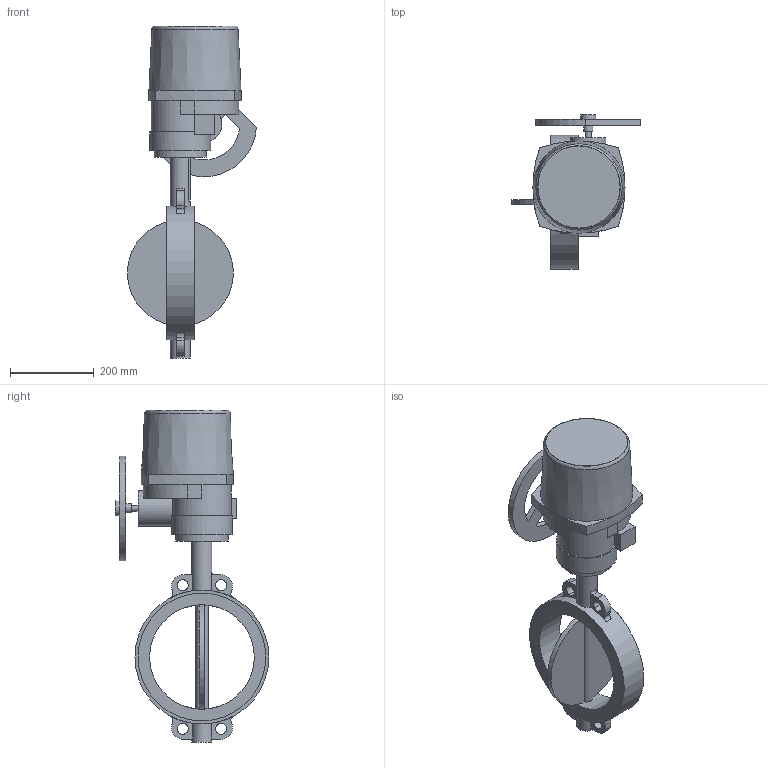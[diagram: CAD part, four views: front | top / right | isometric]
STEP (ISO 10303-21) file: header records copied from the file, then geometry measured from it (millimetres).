
FILE_DESCRIPTION(('STEP AP203'), '1');
FILE_NAME('青蜮铕 017WDN250+菹 QT50-1', '', ('UNSPECIFIED'), ('UNSPECIFIED'), 'ASCON STEP Converter 1.6', 'ASCON Math Kernel', '');
FILE_SCHEMA(('CONFIG_CONTROL_DESIGN'));
Length unit declared in the file: millimetre
Bounding box: 307.85 x 367.5 x 793 mm (x, y, z)
Volume: 10133651.5 mm3; surface area: 746594.4 mm2
Topology: 1 solids, 2 shells, 727 faces, 2119 edges, 1365 vertices
Faces by surface type: cylinder 507, plane 213, torus 6, cone 1
Full cylindrical faces by diameter (mm): 10 x4, 12 x4, 14 x1, 22 x1, 28.6 x1, 36 x1, 48 x2, 70 x1, 85 x1, 125 x1, 145 x1, 250 x1, 305 x2, 320 x1
Entity records: 31373 total; most frequent: CARTESIAN_POINT 5378, DIRECTION 4610, ORIENTED_EDGE 4115, EDGE_CURVE 2089, AXIS2_PLACEMENT_3D 1821, VERTEX_POINT 1362, CIRCLE 1093, LINE 968
